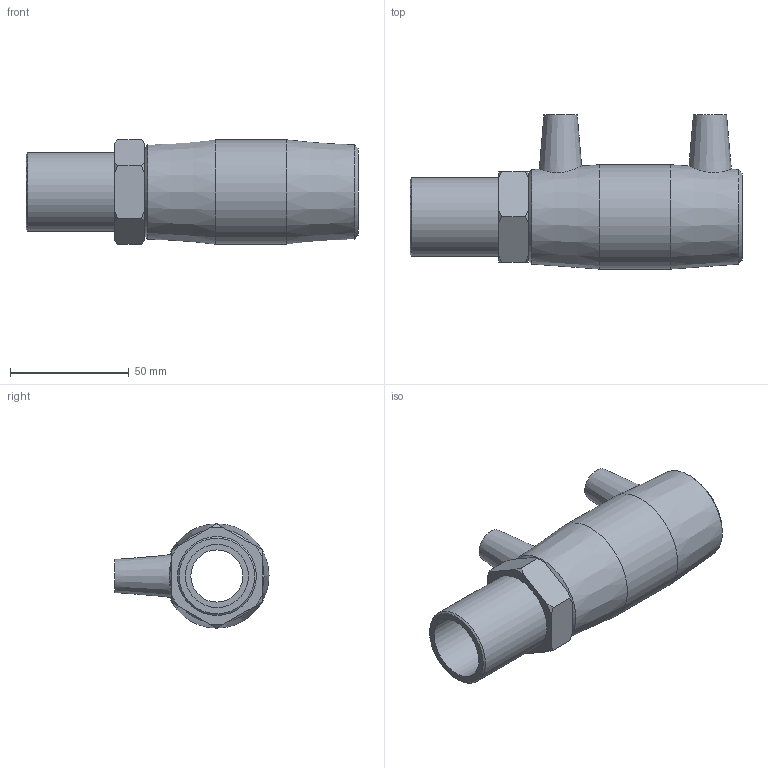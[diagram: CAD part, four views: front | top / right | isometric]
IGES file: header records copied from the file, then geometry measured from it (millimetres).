
Global section: file name: 492104032010N.ipt; native system: Autodesk Inventor 2015; preprocessor: unknown; author: KIM; date: 20200202.122305; units: millimetre
Bounding box: 140 x 65 x 44 mm (x, y, z)
Volume: 102761.5 mm3; surface area: 36482.3 mm2
Topology: 1 solids, 2 shells, 54 faces, 129 edges, 88 vertices
Faces by surface type: plane 21, cone 19, revolution 8, cylinder 6
Full cylindrical faces by diameter (mm): 4 x2, 32 x2, 33.249 x1, 44 x1
